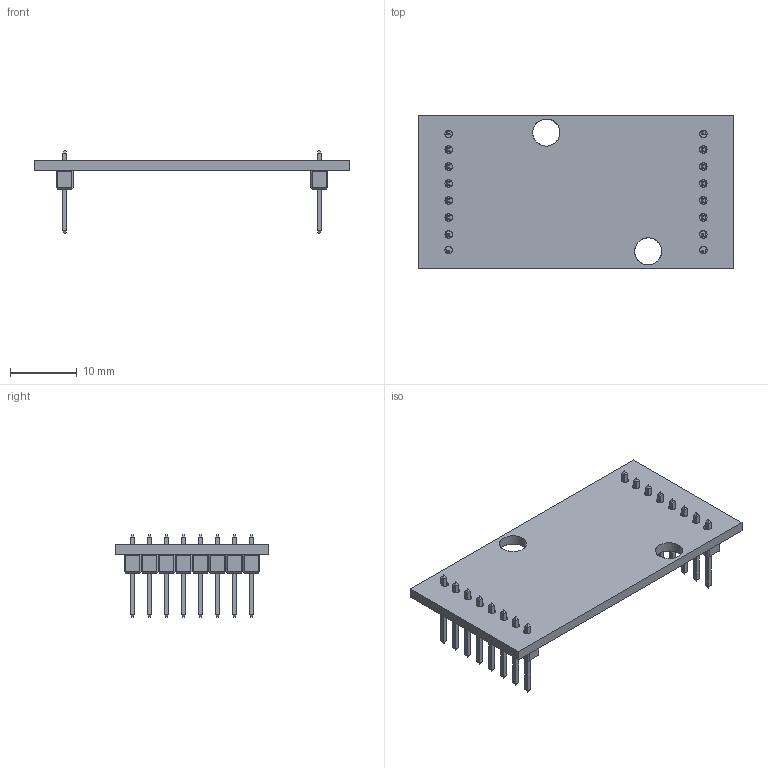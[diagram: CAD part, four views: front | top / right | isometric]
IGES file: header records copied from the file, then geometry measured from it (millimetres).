
Global section: file name: D:\Daten-Huge\PLM_Export\Huellen_aufbr\20120404_fuer_Vertrieb\MC3002P.igs; native system: NX V7.5; preprocessor: SIEMENS PLM Software NX 7.5; author: DR. FRITZ FAULHABER GmbH & Co. KG; organization: DR. FRITZ FAULHABER GmbH & Co. KG; date: 20120404.105318; units: millimetre
Bounding box: 47.24 x 23 x 12.4 mm (x, y, z)
Surface area: 3127.8 mm2 (no closed solid volume)
Topology: 0 solids, 0 shells, 708 faces, 3039 edges, 3018 vertices
Faces by surface type: bspline 708
